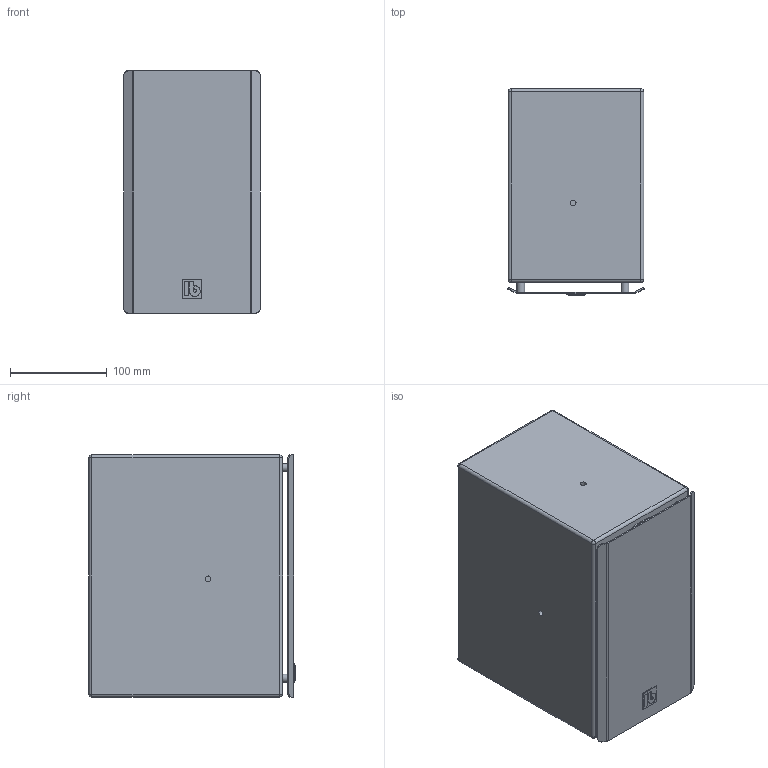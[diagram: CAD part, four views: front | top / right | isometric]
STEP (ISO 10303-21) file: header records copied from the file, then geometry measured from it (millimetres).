
FILE_DESCRIPTION(/* description */ (''),/* implementation_level */ '2;1');
FILE_NAME(/* name */ 'F4.stp',/* time_stamp */ '2024-09-24T14:31:44+02:00',/* author */ ('d.streicher'),/* organization */ (''),/* preprocessor_version */ 'ST-DEVELOPER v20',/* originating_system */ 'Autodesk Inventor 2025',/* authorisation */ '');
FILE_SCHEMA (('AUTOMOTIVE_DESIGN { 1 0 10303 214 3 1 1 }'));
Length unit declared in the file: millimetre
Products named in the file (1): F4 Schwarz
Bounding box: 141.34 x 213.06 x 250 mm (x, y, z)
Volume: 6733917.4 mm3; surface area: 318874.4 mm2
Topology: 1 solids, 1 shells, 121 faces, 263 edges, 164 vertices
Faces by surface type: plane 50, cylinder 48, sphere 10, bspline 9, torus 3, cone 1
Full cylindrical faces by diameter (mm): 6 x6, 8 x6, 28.495 x1, 29 x1, 75 x1, 103 x1, 105 x1, 124 x1, 126 x1
Entity records: 3820 total; most frequent: CARTESIAN_POINT 885, DIRECTION 608, ORIENTED_EDGE 526, EDGE_CURVE 263, AXIS2_PLACEMENT_3D 240, VERTEX_POINT 164, EDGE_LOOP 147, LINE 128
